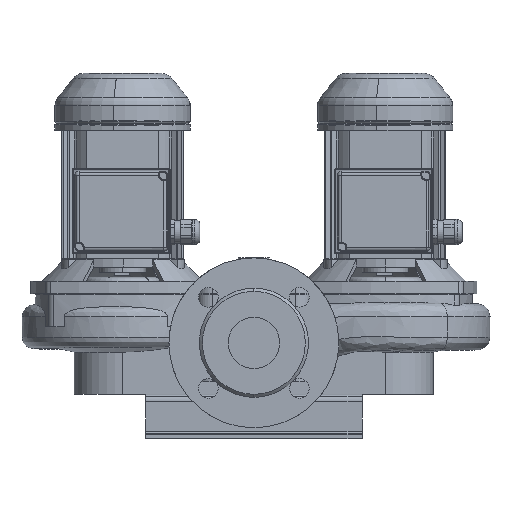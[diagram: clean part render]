
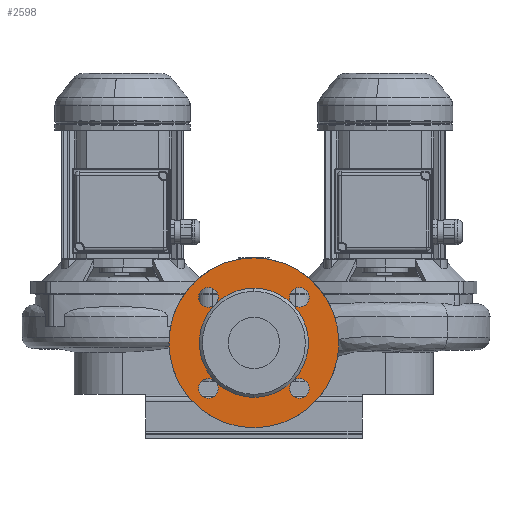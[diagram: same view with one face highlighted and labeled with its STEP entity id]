
A CAD part, front view. The second image highlights one B-rep face of the part: STEP entity #2598.
In plain terms, the highlighted planar face has unit normal (0, -1, 0) as drawn and (-1, 0, 0) by its records, which use the part's own axes.
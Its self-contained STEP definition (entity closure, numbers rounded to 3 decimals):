
#2598=ADVANCED_FACE('',(#6542,#6543),#6544,.T.);
#2642=EDGE_CURVE('',#6611,#6612,#6613,.T.);
#2644=EDGE_CURVE('',#6615,#6611,#6616,.T.);
#2646=EDGE_CURVE('',#6618,#6615,#6619,.T.);
#2650=EDGE_CURVE('',#6625,#6626,#6627,.T.);
#2654=EDGE_CURVE('',#6633,#6634,#6635,.T.);
#2658=EDGE_CURVE('',#6641,#6642,#6643,.T.);
#2662=EDGE_CURVE('',#6649,#6650,#6651,.T.);
#2666=EDGE_CURVE('',#6657,#6658,#6659,.T.);
#2858=EDGE_CURVE('',#6658,#6657,#6942,.T.);
#2862=EDGE_CURVE('',#6615,#6649,#6946,.T.);
#2864=EDGE_CURVE('',#6650,#6615,#6948,.T.);
#2866=EDGE_CURVE('',#6611,#6641,#6950,.T.);
#2868=EDGE_CURVE('',#6642,#6611,#6952,.T.);
#2870=EDGE_CURVE('',#6954,#6633,#6955,.T.);
#2872=EDGE_CURVE('',#6634,#6954,#6957,.T.);
#2874=EDGE_CURVE('',#6959,#6625,#6960,.T.);
#2876=EDGE_CURVE('',#6626,#6959,#6962,.T.);
#2878=EDGE_CURVE('',#6612,#6954,#6964,.T.);
#2880=EDGE_CURVE('',#6954,#6959,#6966,.T.);
#2882=EDGE_CURVE('',#6959,#6618,#6968,.T.);
#6542=FACE_OUTER_BOUND('',#13099,.T.);
#6543=FACE_BOUND('',#13100,.T.);
#6544=PLANE('',#13101);
#6611=VERTEX_POINT('',#14484);
#6612=VERTEX_POINT('',#14485);
#6613=CIRCLE('',#14486,53.0);
#6615=VERTEX_POINT('',#14489);
#6616=CIRCLE('',#14490,53.0);
#6618=VERTEX_POINT('',#14493);
#6619=CIRCLE('',#14494,53.0);
#6625=VERTEX_POINT('',#14502);
#6626=VERTEX_POINT('',#14503);
#6627=CIRCLE('',#14504,9.5);
#6633=VERTEX_POINT('',#14512);
#6634=VERTEX_POINT('',#14513);
#6635=CIRCLE('',#14514,9.5);
#6641=VERTEX_POINT('',#14522);
#6642=VERTEX_POINT('',#14523);
#6643=CIRCLE('',#14524,9.5);
#6649=VERTEX_POINT('',#14532);
#6650=VERTEX_POINT('',#14533);
#6651=CIRCLE('',#14534,9.5);
#6657=VERTEX_POINT('',#14542);
#6658=VERTEX_POINT('',#14543);
#6659=CIRCLE('',#14544,82.5);
#6942=CIRCLE('',#15003,82.5);
#6946=CIRCLE('',#15009,9.5);
#6948=CIRCLE('',#15012,9.5);
#6950=CIRCLE('',#15015,9.5);
#6952=CIRCLE('',#15018,9.5);
#6954=VERTEX_POINT('',#15021);
#6955=CIRCLE('',#15022,9.5);
#6957=CIRCLE('',#15025,9.5);
#6959=VERTEX_POINT('',#15028);
#6960=CIRCLE('',#15029,9.5);
#6962=CIRCLE('',#15032,9.5);
#6964=CIRCLE('',#15035,53.0);
#6966=CIRCLE('',#15038,53.0);
#6968=CIRCLE('',#15041,53.0);
#13099=EDGE_LOOP('',(#22012,#22013));
#13100=EDGE_LOOP('',(#22014,#22015,#22016,#22017,#22018,#22019,#22020,#22021,#22022,#22023,#22024,#22025,#22026,#22027,#22028,#22029,#22030,#22031));
#13101=AXIS2_PLACEMENT_3D('',#22032,#22033,#22034);
#14484=CARTESIAN_POINT('',(-157.0,37.477,21.977));
#14485=CARTESIAN_POINT('',(-157.0,0.,37.5));
#14486=AXIS2_PLACEMENT_3D('',#22194,#22195,#22196);
#14489=CARTESIAN_POINT('',(-157.0,37.477,-52.977));
#14490=AXIS2_PLACEMENT_3D('',#22197,#22198,#22199);
#14493=CARTESIAN_POINT('',(-157.0,0.,-68.5));
#14494=AXIS2_PLACEMENT_3D('',#22200,#22201,#22202);
#14502=CARTESIAN_POINT('',(-157.0,-49.553,-51.85));
#14503=CARTESIAN_POINT('',(-157.0,-38.835,-67.538));
#14504=AXIS2_PLACEMENT_3D('',#22206,#22207,#22208);
#14512=CARTESIAN_POINT('',(-157.,-36.35,34.053));
#14513=CARTESIAN_POINT('',(-157.,-52.038,23.335));
#14514=AXIS2_PLACEMENT_3D('',#22212,#22213,#22214);
#14522=CARTESIAN_POINT('',(-157.,49.553,20.85));
#14523=CARTESIAN_POINT('',(-157.,38.835,36.538));
#14524=AXIS2_PLACEMENT_3D('',#22218,#22219,#22220);
#14532=CARTESIAN_POINT('',(-157.0,36.35,-65.053));
#14533=CARTESIAN_POINT('',(-157.0,52.038,-54.335));
#14534=AXIS2_PLACEMENT_3D('',#22224,#22225,#22226);
#14542=CARTESIAN_POINT('',(-157.0,0.,-98.0));
#14543=CARTESIAN_POINT('',(-157.0,0.,67.0));
#14544=AXIS2_PLACEMENT_3D('',#22230,#22231,#22232);
#15003=AXIS2_PLACEMENT_3D('',#22470,#22471,#22472);
#15009=AXIS2_PLACEMENT_3D('',#22476,#22477,#22478);
#15012=AXIS2_PLACEMENT_3D('',#22479,#22480,#22481);
#15015=AXIS2_PLACEMENT_3D('',#22482,#22483,#22484);
#15018=AXIS2_PLACEMENT_3D('',#22485,#22486,#22487);
#15021=CARTESIAN_POINT('',(-157.0,-37.477,21.977));
#15022=AXIS2_PLACEMENT_3D('',#22488,#22489,#22490);
#15025=AXIS2_PLACEMENT_3D('',#22491,#22492,#22493);
#15028=CARTESIAN_POINT('',(-157.0,-37.477,-52.977));
#15029=AXIS2_PLACEMENT_3D('',#22494,#22495,#22496);
#15032=AXIS2_PLACEMENT_3D('',#22497,#22498,#22499);
#15035=AXIS2_PLACEMENT_3D('',#22500,#22501,#22502);
#15038=AXIS2_PLACEMENT_3D('',#22503,#22504,#22505);
#15041=AXIS2_PLACEMENT_3D('',#22506,#22507,#22508);
#22012=ORIENTED_EDGE('',*,*,#2858,.F.);
#22013=ORIENTED_EDGE('',*,*,#2666,.F.);
#22014=ORIENTED_EDGE('',*,*,#2642,.T.);
#22015=ORIENTED_EDGE('',*,*,#2878,.T.);
#22016=ORIENTED_EDGE('',*,*,#2870,.T.);
#22017=ORIENTED_EDGE('',*,*,#2654,.T.);
#22018=ORIENTED_EDGE('',*,*,#2872,.T.);
#22019=ORIENTED_EDGE('',*,*,#2880,.T.);
#22020=ORIENTED_EDGE('',*,*,#2874,.T.);
#22021=ORIENTED_EDGE('',*,*,#2650,.T.);
#22022=ORIENTED_EDGE('',*,*,#2876,.T.);
#22023=ORIENTED_EDGE('',*,*,#2882,.T.);
#22024=ORIENTED_EDGE('',*,*,#2646,.T.);
#22025=ORIENTED_EDGE('',*,*,#2862,.T.);
#22026=ORIENTED_EDGE('',*,*,#2662,.T.);
#22027=ORIENTED_EDGE('',*,*,#2864,.T.);
#22028=ORIENTED_EDGE('',*,*,#2644,.T.);
#22029=ORIENTED_EDGE('',*,*,#2866,.T.);
#22030=ORIENTED_EDGE('',*,*,#2658,.T.);
#22031=ORIENTED_EDGE('',*,*,#2868,.T.);
#22032=CARTESIAN_POINT('',(-157.0,0.,-83.25));
#22033=DIRECTION('',(-1.0,0.0,0.0));
#22034=DIRECTION('',(0.0,0.0,1.0));
#22194=CARTESIAN_POINT('',(-157.0,0.,-15.5));
#22195=DIRECTION('',(1.0,0.0,0.0));
#22196=DIRECTION('',(0.0,0.0,-1.0));
#22197=CARTESIAN_POINT('',(-157.0,0.,-15.5));
#22198=DIRECTION('',(1.0,0.0,0.0));
#22199=DIRECTION('',(0.0,0.0,-1.0));
#22200=CARTESIAN_POINT('',(-157.0,0.,-15.5));
#22201=DIRECTION('',(1.0,0.0,0.0));
#22202=DIRECTION('',(0.0,0.0,-1.0));
#22206=CARTESIAN_POINT('',(-157.0,-44.194,-59.694));
#22207=DIRECTION('',(1.0,0.0,0.0));
#22208=DIRECTION('',(0.0,-0.564,0.826));
#22212=CARTESIAN_POINT('',(-157.,-44.194,28.694));
#22213=DIRECTION('',(1.0,0.0,-0.0));
#22214=DIRECTION('',(0.0,0.826,0.564));
#22218=CARTESIAN_POINT('',(-157.,44.194,28.694));
#22219=DIRECTION('',(1.0,0.0,0.0));
#22220=DIRECTION('',(0.0,0.564,-0.826));
#22224=CARTESIAN_POINT('',(-157.0,44.194,-59.694));
#22225=DIRECTION('',(1.0,0.0,0.0));
#22226=DIRECTION('',(0.0,-0.826,-0.564));
#22230=CARTESIAN_POINT('',(-157.0,0.,-15.5));
#22231=DIRECTION('',(1.0,0.0,0.0));
#22232=DIRECTION('',(0.0,0.0,-1.0));
#22470=CARTESIAN_POINT('',(-157.0,0.,-15.5));
#22471=DIRECTION('',(1.0,0.0,0.0));
#22472=DIRECTION('',(0.0,0.0,-1.0));
#22476=CARTESIAN_POINT('',(-157.0,44.194,-59.694));
#22477=DIRECTION('',(1.0,0.0,0.0));
#22478=DIRECTION('',(0.0,-0.826,-0.564));
#22479=CARTESIAN_POINT('',(-157.0,44.194,-59.694));
#22480=DIRECTION('',(1.0,0.0,0.0));
#22481=DIRECTION('',(0.0,-0.826,-0.564));
#22482=CARTESIAN_POINT('',(-157.,44.194,28.694));
#22483=DIRECTION('',(1.0,0.0,0.0));
#22484=DIRECTION('',(0.0,0.564,-0.826));
#22485=CARTESIAN_POINT('',(-157.,44.194,28.694));
#22486=DIRECTION('',(1.0,0.0,0.0));
#22487=DIRECTION('',(0.0,0.564,-0.826));
#22488=CARTESIAN_POINT('',(-157.,-44.194,28.694));
#22489=DIRECTION('',(1.0,0.0,-0.0));
#22490=DIRECTION('',(0.0,0.826,0.564));
#22491=CARTESIAN_POINT('',(-157.,-44.194,28.694));
#22492=DIRECTION('',(1.0,0.0,-0.0));
#22493=DIRECTION('',(0.0,0.826,0.564));
#22494=CARTESIAN_POINT('',(-157.0,-44.194,-59.694));
#22495=DIRECTION('',(1.0,0.0,0.0));
#22496=DIRECTION('',(0.0,-0.564,0.826));
#22497=CARTESIAN_POINT('',(-157.0,-44.194,-59.694));
#22498=DIRECTION('',(1.0,0.0,0.0));
#22499=DIRECTION('',(0.0,-0.564,0.826));
#22500=CARTESIAN_POINT('',(-157.0,0.,-15.5));
#22501=DIRECTION('',(1.0,0.0,0.0));
#22502=DIRECTION('',(0.0,0.0,-1.0));
#22503=CARTESIAN_POINT('',(-157.0,0.,-15.5));
#22504=DIRECTION('',(1.0,0.0,0.0));
#22505=DIRECTION('',(0.0,0.0,-1.0));
#22506=CARTESIAN_POINT('',(-157.0,0.,-15.5));
#22507=DIRECTION('',(1.0,0.0,0.0));
#22508=DIRECTION('',(0.0,0.0,-1.0));
